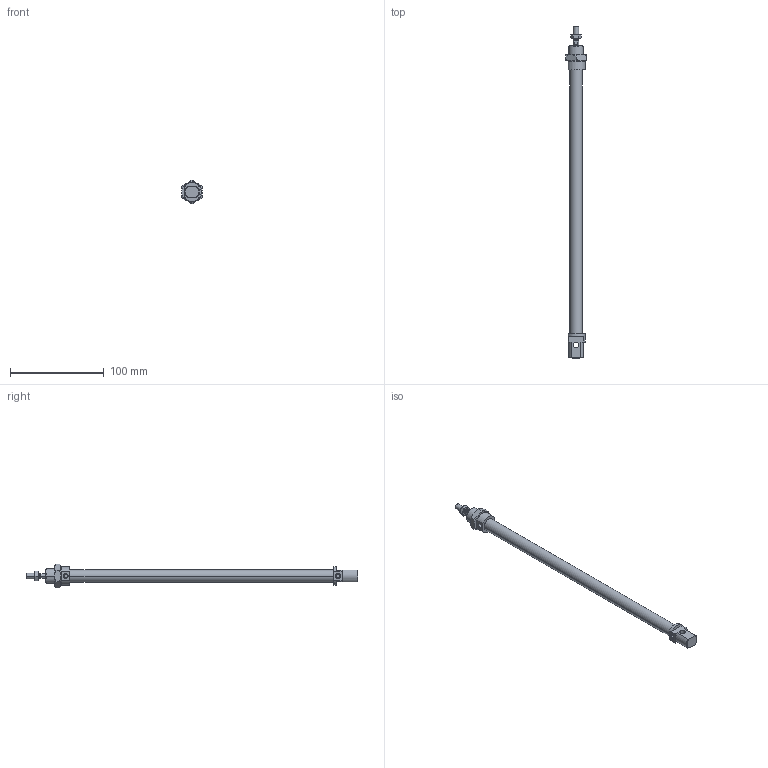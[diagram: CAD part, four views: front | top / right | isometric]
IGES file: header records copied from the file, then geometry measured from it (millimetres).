
Global section: file name: No Iges File Name specified; native system: Autodesk Inventor 2010; preprocessor: AutoDesk Inventor Iges Exporter R2010; author: rivolro1; date: 20090604.093201; units: millimetre
Bounding box: 22 x 355 x 25.4 mm (x, y, z)
Volume: 51643.3 mm3; surface area: 27997.3 mm2
Topology: 4 solids, 4 shells, 107 faces, 236 edges, 144 vertices
Faces by surface type: plane 39, cone 28, bspline 20, cylinder 14, revolution 6
